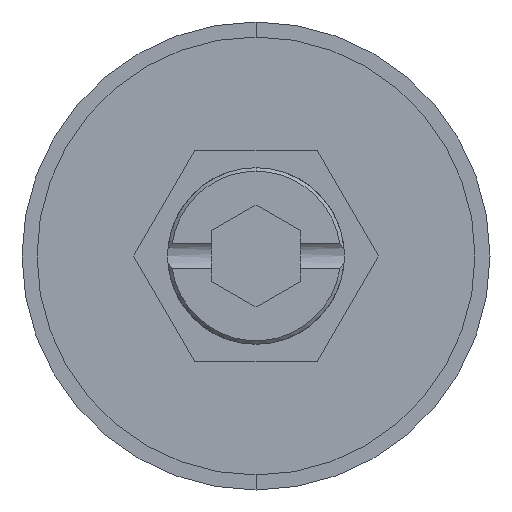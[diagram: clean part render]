
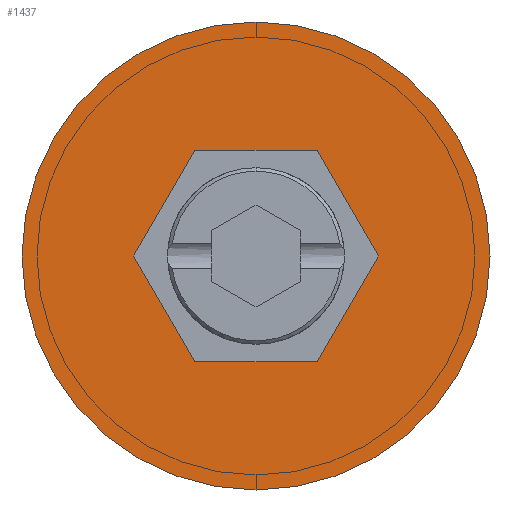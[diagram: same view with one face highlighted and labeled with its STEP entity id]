
A CAD part, front view. The second image highlights one B-rep face of the part: STEP entity #1437.
In plain terms, the highlighted planar face has unit normal (0, -1, 0).
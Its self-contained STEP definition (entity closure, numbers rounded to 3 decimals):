
#15 = ORIENTED_EDGE ( 'NONE', *, *, #759, .F. ) ;
#28 = DIRECTION ( 'NONE',  ( -0.5, 0., 0.866 ) ) ;
#61 = CARTESIAN_POINT ( 'NONE',  ( -3.464, 0., -6. ) ) ;
#83 = ORIENTED_EDGE ( 'NONE', *, *, #151, .F. ) ;
#86 = CARTESIAN_POINT ( 'NONE',  ( 6.928, 0., 0. ) ) ;
#112 = LINE ( 'NONE', #202, #1875 ) ;
#140 = EDGE_LOOP ( 'NONE', ( #990, #543, #83, #1388, #15, #1801 ) ) ;
#145 = CARTESIAN_POINT ( 'NONE',  ( 3.464, 0., 6. ) ) ;
#151 = EDGE_CURVE ( 'NONE', #1802, #1040, #754, .T. ) ;
#177 = CARTESIAN_POINT ( 'NONE',  ( 3.464, 0., -6. ) ) ;
#192 = DIRECTION ( 'NONE',  ( -0.5, 0., -0.866 ) ) ;
#202 = CARTESIAN_POINT ( 'NONE',  ( -6.928, 0., 0. ) ) ;
#205 = CARTESIAN_POINT ( 'NONE',  ( 6.928, 0., 0. ) ) ;
#253 = FACE_BOUND ( 'NONE', #140, .T. ) ;
#314 = EDGE_CURVE ( 'NONE', #1600, #1416, #1393, .T. ) ;
#399 = CIRCLE ( 'NONE', #1556, 13.25 ) ;
#437 = DIRECTION ( 'NONE',  ( 0.5, 0., 0.866 ) ) ;
#473 = CARTESIAN_POINT ( 'NONE',  ( -3.464, 0., 6. ) ) ;
#487 = EDGE_CURVE ( 'NONE', #939, #789, #399, .T. ) ;
#532 = LINE ( 'NONE', #1567, #1380 ) ;
#543 = ORIENTED_EDGE ( 'NONE', *, *, #1241, .F. ) ;
#746 = DIRECTION ( 'NONE',  ( 1., 0., 0. ) ) ;
#754 = LINE ( 'NONE', #1555, #1618 ) ;
#759 = EDGE_CURVE ( 'NONE', #2005, #893, #2196, .T. ) ;
#789 = VERTEX_POINT ( 'NONE', #1063 ) ;
#858 = CIRCLE ( 'NONE', #1146, 13.25 ) ;
#879 = VECTOR ( 'NONE', #28, 1000. ) ;
#893 = VERTEX_POINT ( 'NONE', #145 ) ;
#939 = VERTEX_POINT ( 'NONE', #1005 ) ;
#990 = ORIENTED_EDGE ( 'NONE', *, *, #314, .F. ) ;
#1005 = CARTESIAN_POINT ( 'NONE',  ( 0., 0., 13.25 ) ) ;
#1040 = VERTEX_POINT ( 'NONE', #1653 ) ;
#1047 = DIRECTION ( 'NONE',  ( 0.5, 0., -0.866 ) ) ;
#1055 = PLANE ( 'NONE',  #1716 ) ;
#1063 = CARTESIAN_POINT ( 'NONE',  ( 0., 0., -13.25 ) ) ;
#1077 = DIRECTION ( 'NONE',  ( -1., 0., 0. ) ) ;
#1122 = CARTESIAN_POINT ( 'NONE',  ( 3.464, 0., -6. ) ) ;
#1146 = AXIS2_PLACEMENT_3D ( 'NONE', #1737, #1749, #1874 ) ;
#1186 = EDGE_CURVE ( 'NONE', #893, #1802, #532, .T. ) ;
#1241 = EDGE_CURVE ( 'NONE', #1040, #1600, #112, .T. ) ;
#1333 = EDGE_CURVE ( 'NONE', #789, #939, #858, .T. ) ;
#1334 = ORIENTED_EDGE ( 'NONE', *, *, #1333, .T. ) ;
#1364 = VECTOR ( 'NONE', #437, 1000. ) ;
#1380 = VECTOR ( 'NONE', #1077, 1000. ) ;
#1388 = ORIENTED_EDGE ( 'NONE', *, *, #1186, .F. ) ;
#1389 = EDGE_LOOP ( 'NONE', ( #1334, #2200 ) ) ;
#1391 = DIRECTION ( 'NONE',  ( 0., -1., 0. ) ) ;
#1393 = LINE ( 'NONE', #61, #2207 ) ;
#1416 = VERTEX_POINT ( 'NONE', #177 ) ;
#1437 = ADVANCED_FACE ( 'NONE', ( #253, #1550 ), #1055, .T. ) ;
#1541 = CARTESIAN_POINT ( 'NONE',  ( 0., 0., 0. ) ) ;
#1550 = FACE_OUTER_BOUND ( 'NONE', #1389, .T. ) ;
#1555 = CARTESIAN_POINT ( 'NONE',  ( -3.464, 0., 6. ) ) ;
#1556 = AXIS2_PLACEMENT_3D ( 'NONE', #1956, #1967, #1973 ) ;
#1567 = CARTESIAN_POINT ( 'NONE',  ( 3.464, 0., 6. ) ) ;
#1600 = VERTEX_POINT ( 'NONE', #2205 ) ;
#1618 = VECTOR ( 'NONE', #192, 1000. ) ;
#1653 = CARTESIAN_POINT ( 'NONE',  ( -6.928, 0., 0. ) ) ;
#1716 = AXIS2_PLACEMENT_3D ( 'NONE', #1541, #1391, #1885 ) ;
#1737 = CARTESIAN_POINT ( 'NONE',  ( 0., 0., 0. ) ) ;
#1749 = DIRECTION ( 'NONE',  ( 0., -1., 0. ) ) ;
#1801 = ORIENTED_EDGE ( 'NONE', *, *, #2018, .F. ) ;
#1802 = VERTEX_POINT ( 'NONE', #473 ) ;
#1873 = LINE ( 'NONE', #1122, #1364 ) ;
#1874 = DIRECTION ( 'NONE',  ( 0., 0., -1. ) ) ;
#1875 = VECTOR ( 'NONE', #1047, 1000. ) ;
#1885 = DIRECTION ( 'NONE',  ( 0., 0., -1. ) ) ;
#1956 = CARTESIAN_POINT ( 'NONE',  ( 0., 0., 0. ) ) ;
#1967 = DIRECTION ( 'NONE',  ( 0., -1., 0. ) ) ;
#1973 = DIRECTION ( 'NONE',  ( 0., 0., -1. ) ) ;
#2005 = VERTEX_POINT ( 'NONE', #86 ) ;
#2018 = EDGE_CURVE ( 'NONE', #1416, #2005, #1873, .T. ) ;
#2196 = LINE ( 'NONE', #205, #879 ) ;
#2200 = ORIENTED_EDGE ( 'NONE', *, *, #487, .T. ) ;
#2205 = CARTESIAN_POINT ( 'NONE',  ( -3.464, 0., -6. ) ) ;
#2207 = VECTOR ( 'NONE', #746, 1000. ) ;
